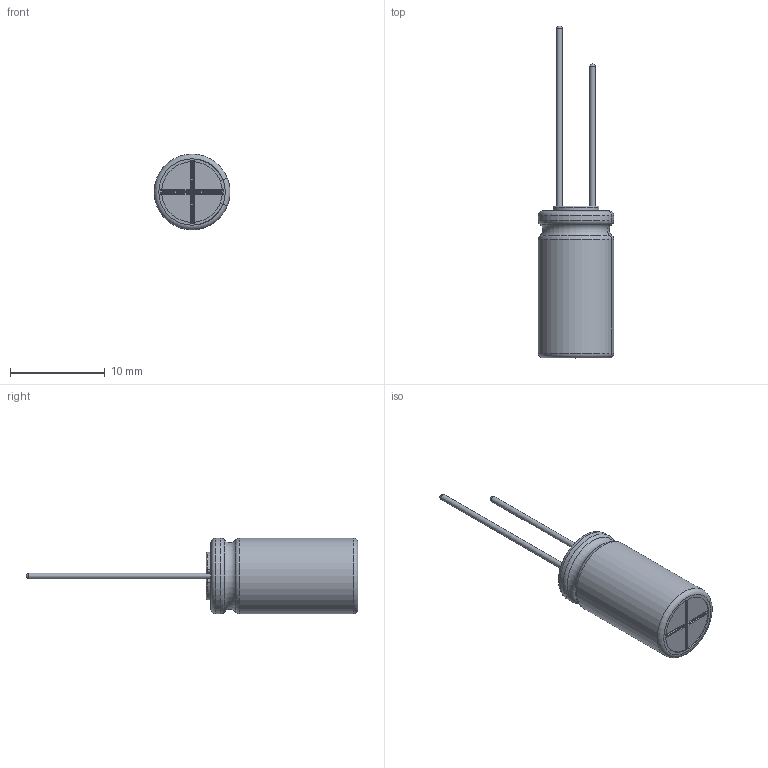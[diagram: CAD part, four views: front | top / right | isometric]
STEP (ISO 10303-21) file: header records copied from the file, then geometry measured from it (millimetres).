
FILE_DESCRIPTION(/* description */ (''),/* implementation_level */ '2;1');
FILE_NAME(/* name */ '8x16_Lead.stp',/* time_stamp */ '2017-09-05T13:58:19+09:00',/* author */ (''),/* organization */ (''),/* preprocessor_version */ 'ST-DEVELOPER v16',/* originating_system */ 'SIEMENS PLM Software NX 11.0',/* authorisation */ '');
FILE_SCHEMA (('AUTOMOTIVE_DESIGN { 1 0 10303 214 3 1 1 1 }'));
Length unit declared in the file: millimetre
Products named in the file (1): 8x16_Lead_0
Bounding box: 7.99 x 35 x 8 mm (x, y, z)
Volume: 777.4 mm3; surface area: 1375 mm2
Topology: 3 solids, 3 shells, 115 faces, 288 edges, 181 vertices
Faces by surface type: cylinder 44, torus 33, plane 28, sphere 6, bspline 4
Full cylindrical faces by diameter (mm): 0.6 x2, 7.8 x2
Entity records: 4020 total; most frequent: CARTESIAN_POINT 680, DIRECTION 664, ORIENTED_EDGE 544, AXIS2_PLACEMENT_3D 280, EDGE_CURVE 272, VERTEX_POINT 176, CIRCLE 160, EDGE_LOOP 128
